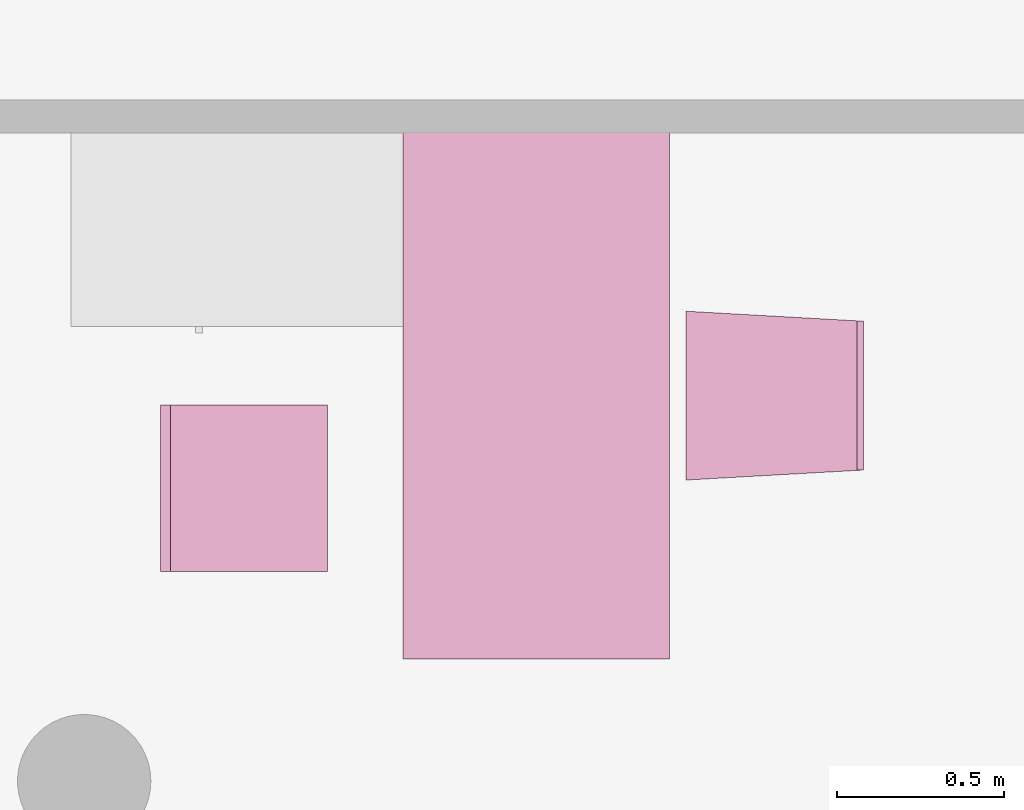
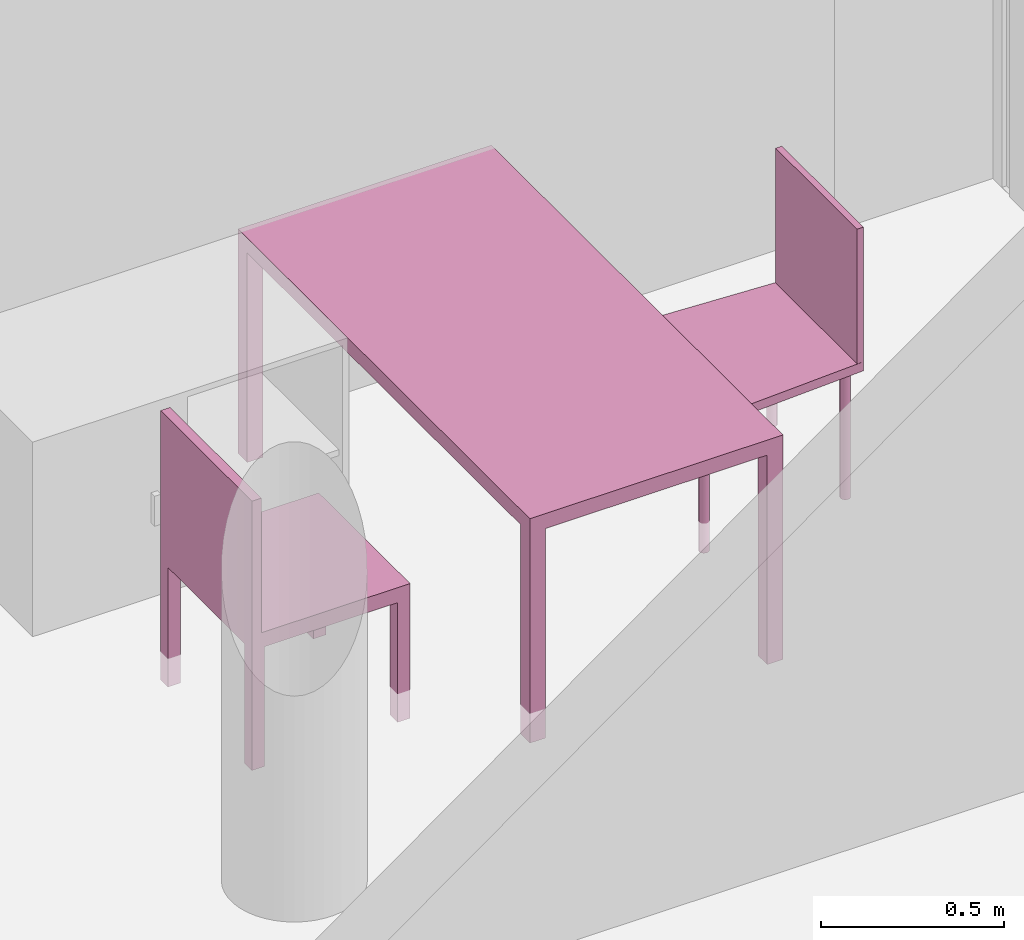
"""IFC4 building model written with IfcOpenShell, lengths in metres."""

import ifcopenshell
import ifcopenshell.guid

model = None  # the IFC model being written
_history = None  # IfcOwnerHistory: only IFC2X3 demands one
_inside = {}  # id of a spatial element -> (the spatial element, [elements in it])
_under = {}  # id of a project, library or spatial element -> (it, [spatial elements below it])
_declared = {}  # id of a project -> (the project, [libraries it declares])
_typed = {}  # id of a type object -> (the type object, [elements of that type])
_made_of = {}  # id of a material, layer set ... -> (it, [elements and type objects made of it])


def new_model(schema):
    """Start an empty IFC model of exactly this schema.

    Asked for "IFC4X3", IfcOpenShell would pick the latest addendum, in which some entities
    have other attributes; the version numbers below select the first issue.
    IFC2X3 requires an IfcOwnerHistory on every rooted entity: one is made here for all.
    """
    global model, _history
    if schema == "IFC4X3":
        model = ifcopenshell.file(schema_version=(4, 3, 0, 0))
    else:
        model = ifcopenshell.file(schema=schema)
    _inside.clear()
    _under.clear()
    _declared.clear()
    _typed.clear()
    _made_of.clear()
    _history = None
    if model.schema == "IFC2X3":
        org = make("IfcOrganization", Name="unknown")
        user = make(
            "IfcPersonAndOrganization",
            ThePerson=make("IfcPerson", FamilyName="unknown"),
            TheOrganization=org,
        )
        app = make(
            "IfcApplication",
            ApplicationDeveloper=org,
            Version="unknown",
            ApplicationFullName="unknown",
            ApplicationIdentifier="unknown",
        )
        _history = make(
            "IfcOwnerHistory",
            OwningUser=user,
            OwningApplication=app,
            ChangeAction="ADDED",
            CreationDate=0,
        )
    return model


def make(cls, **values):
    """One entity of the class cls with the attributes given. An attribute that is None is left unset."""
    return model.create_entity(
        cls, **{name: value for name, value in values.items() if value is not None}
    )


def entity(cls, *values):
    """Any entity or typed value of the class cls, its attributes in the order of the schema. None: left unset."""
    e = model.create_entity(cls)
    for i, value in enumerate(values):
        if value is not None:
            e[i] = value
    return e


def rooted(cls, **values):
    """An entity with a GlobalId (a new one), such as an element, a storey or a relation."""
    return make(cls, GlobalId=ifcopenshell.guid.new(), OwnerHistory=_history, **values)


def si_unit(unit_type, name, prefix=None):
    """IfcSIUnit, for example si_unit("LENGTHUNIT", "METRE", prefix="MILLI")."""
    return make("IfcSIUnit", UnitType=unit_type, Prefix=prefix, Name=name)


def converted_unit(unit_type, name, factor, base, dimensions=None, offset=None):
    """IfcConversionBasedUnit, such as the inch: factor (a typed value) times the base unit."""
    return make(
        "IfcConversionBasedUnit"
        if offset is None
        else "IfcConversionBasedUnitWithOffset",
        ConversionOffset=offset,
        Dimensions=None
        if dimensions is None
        else entity("IfcDimensionalExponents", *dimensions),
        UnitType=unit_type,
        Name=name,
        ConversionFactor=make(
            "IfcMeasureWithUnit", ValueComponent=factor, UnitComponent=base
        ),
    )


def derived_unit(unit_type, elements):
    """IfcDerivedUnit: a product of units, each with its exponent."""
    return make(
        "IfcDerivedUnit",
        Elements=[
            make("IfcDerivedUnitElement", Unit=unit, Exponent=power)
            for unit, power in elements
        ],
        UnitType=unit_type,
    )


def assignment(units):
    """IfcUnitAssignment: the units of a project."""
    return None if units is None else make("IfcUnitAssignment", Units=units)


def point(xyz):
    """IfcCartesianPoint."""
    return None if xyz is None else make("IfcCartesianPoint", Coordinates=xyz)


def direction(xyz):
    """IfcDirection."""
    return None if xyz is None else make("IfcDirection", DirectionRatios=xyz)


def frame(location, z_axis=None, x_axis=None):
    """IfcAxis2Placement3D, a coordinate frame: its origin and axes. An axis left out is left unset."""
    return make(
        "IfcAxis2Placement3D",
        Location=point(location),
        Axis=direction(z_axis),
        RefDirection=direction(x_axis),
    )


def origin():
    """The frame at (0, 0, 0) with its axes left unset."""
    return frame((0.0, 0.0, 0.0))


def place(relative_to, where):
    """IfcLocalPlacement: puts the frame where relative to a parent placement (None: the world)."""
    return make(
        "IfcLocalPlacement", PlacementRelTo=relative_to, RelativePlacement=where
    )


def context(
    kind, dimensions, precision=None, world=None, true_north=None, identifier=None
):
    """IfcGeometricRepresentationContext, for example the 3D "Model" context."""
    return make(
        "IfcGeometricRepresentationContext",
        ContextIdentifier=identifier,
        ContextType=kind,
        CoordinateSpaceDimension=dimensions,
        Precision=precision,
        WorldCoordinateSystem=world,
        TrueNorth=true_north,
    )


def subcontext(parent, identifier, kind, view, scale=None):
    """IfcGeometricRepresentationSubContext, for example "Body" below "Model"."""
    return make(
        "IfcGeometricRepresentationSubContext",
        ContextIdentifier=identifier,
        ContextType=kind,
        ParentContext=parent,
        TargetScale=scale,
        TargetView=view,
    )


def project(units=None, contexts=None):
    """IfcProject with its units and contexts."""
    return rooted(
        "IfcProject",
        Name="project",
        RepresentationContexts=contexts,
        UnitsInContext=assignment(units),
    )


def spatial(cls, under=None, at=None, **own):
    """A site, building, storey or space (cls), placed at a placement, below another one or the project."""
    s = rooted(cls, ObjectPlacement=at, **own)
    if under is not None:
        _under.setdefault(under.id(), (under, []))[1].append(s)
    return s


def faces_of(points, faces, orient=None, outer=None):
    """IfcFace entities. A face is a list of loops; a loop is a list of indices into points, from 0.

    orient and outer hold one flag for each loop. By default every Orientation is true, the
    first loop of a face is its IfcFaceOuterBound and the others are IfcFaceBound.
    """
    made = []
    for i, loops in enumerate(faces):
        bounds = []
        for j, loop in enumerate(loops):
            is_outer = j == 0 if outer is None else outer[i][j]
            bounds.append(
                make(
                    "IfcFaceOuterBound" if is_outer else "IfcFaceBound",
                    Bound=make("IfcPolyLoop", Polygon=[points[k] for k in loop]),
                    Orientation=True if orient is None else orient[i][j],
                )
            )
        made.append(make("IfcFace", Bounds=bounds))
    return made


def faceted_brep(points, faces, orient=None, outer=None, voids=None):
    """IfcFacetedBrep: a solid bounded by flat faces; with voids (closed shells), ...WithVoids."""
    shared = [point(p) for p in points]
    hull = make("IfcClosedShell", CfsFaces=faces_of(shared, faces, orient, outer))
    if voids is None:
        return make("IfcFacetedBrep", Outer=hull)
    return make(
        "IfcFacetedBrepWithVoids",
        Outer=hull,
        Voids=[
            make(cls, CfsFaces=faces_of(shared, fs, o, b)) for cls, fs, o, b in voids
        ],
    )


def shape(context_of_items, identifier, shape_type, items):
    """IfcShapeRepresentation: the items that make up one representation, for example the "Body"."""
    return make(
        "IfcShapeRepresentation",
        ContextOfItems=context_of_items,
        RepresentationIdentifier=identifier,
        RepresentationType=shape_type,
        Items=items,
    )


def made_of(thing, what):
    """Note that an element or type object is made of a material, layer set ...; save() writes the relation."""
    if what is not None:
        _made_of.setdefault(what.id(), (what, []))[1].append(thing)
    return thing


def element(
    cls,
    number,
    at=None,
    inside=None,
    cuts=None,
    type_object=None,
    material=None,
    context=None,
    identifier="Body",
    shape_type=None,
    held_by="IfcProductDefinitionShape",
    body=None,
    shapes=None,
    **own,
):
    """One element of the class cls, such as IfcWall. Its Tag is "e" and its number.

    at: its placement. inside: the storey or other place that contains it. cuts: it is an
    opening in that element (IfcRelVoidsElement). A single representation is given by context,
    identifier, shape_type and body (its items); several are given by shapes. held_by: the class
    of the entity that holds the representations. save() writes the other relations.
    """
    e = rooted(cls, Tag="e%d" % number, ObjectPlacement=at, **own)
    if body is not None:
        shapes = [shape(context, identifier, shape_type, body)]
    if shapes is not None:
        e.Representation = make(held_by, Representations=shapes)
    if inside is not None:
        _inside.setdefault(inside.id(), (inside, []))[1].append(e)
    if cuts is not None:
        rooted(
            "IfcRelVoidsElement", RelatingBuildingElement=cuts, RelatedOpeningElement=e
        )
    if type_object is not None:
        _typed.setdefault(type_object.id(), (type_object, []))[1].append(e)
    return made_of(e, material)


def aggregate(whole, parts):
    """IfcRelAggregates: a whole, such as a stair, and the parts it consists of."""
    return rooted("IfcRelAggregates", RelatingObject=whole, RelatedObjects=parts)


def save(model, path):
    """Write the relations noted so far, then the file.

    IfcRelAggregates (storeys below a building ...), IfcRelContainedInSpatialStructure (elements
    in a storey), IfcRelDefinesByType, IfcRelAssociatesMaterial and IfcRelDeclares: one each for
    every whole, place, type object, material and project.
    """
    for whole, parts in _under.values():
        aggregate(whole, parts)
    for where, things in _inside.values():
        rooted(
            "IfcRelContainedInSpatialStructure",
            RelatedElements=things,
            RelatingStructure=where,
        )
    for kind, things in _typed.values():
        rooted("IfcRelDefinesByType", RelatedObjects=things, RelatingType=kind)
    for what, things in _made_of.values():
        rooted("IfcRelAssociatesMaterial", RelatedObjects=things, RelatingMaterial=what)
    for by, libraries in _declared.values():
        rooted("IfcRelDeclares", RelatingContext=by, RelatedDefinitions=libraries)
    model.write(path)


model = new_model("IFC4")

# Units and contexts
model_context = context("Model", 3, precision=1e-05, world=origin())
body_context = subcontext(model_context, "Body", "Model", "MODEL_VIEW")
ifc_project = project(units=[si_unit("LENGTHUNIT", "METRE"), si_unit("AREAUNIT", "SQUARE_METRE"), si_unit("VOLUMEUNIT", "CUBIC_METRE"), si_unit("MASSUNIT", "GRAM", prefix="KILO"), converted_unit("PLANEANGLEUNIT", "DEGREE", entity("IfcPlaneAngleMeasure", 0.0174532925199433), si_unit("PLANEANGLEUNIT", "RADIAN"), dimensions=[0, 0, 0, 0, 0, 0, 0]), derived_unit("THERMALTRANSMITTANCEUNIT", [(si_unit("POWERUNIT", "WATT"), 1), (si_unit("THERMODYNAMICTEMPERATUREUNIT", "KELVIN"), -1), (si_unit("LENGTHUNIT", "METRE"), -2)]), derived_unit("VOLUMETRICFLOWRATEUNIT", [(si_unit("LENGTHUNIT", "METRE"), 3), (converted_unit("TIMEUNIT", "hour", entity("IfcTimeMeasure", 3600.0), si_unit("TIMEUNIT", "SECOND"), dimensions=[0, 0, 1, 0, 0, 0, 0]), -1), (si_unit("LENGTHUNIT", "METRE"), -1)])], contexts=[model_context])

# Building, storeys
building_placement = place(None, origin())
building = spatial("IfcBuilding", under=ifc_project, at=building_placement, Name="HABITATGE PLURIFAMILIAR", CompositionType="ELEMENT")
storey_1_placement = place(building_placement, frame((0.0, 0.0, 12.27)))
storey_1 = spatial("IfcBuildingStorey", under=building, at=storey_1_placement, Name="PLANTA TERCERA", CompositionType="ELEMENT", Elevation=12.27)
storey_2_placement = place(storey_1_placement, frame((0.0, 0.0, 9.26)))
storey_2 = spatial("IfcBuildingStorey", under=storey_1, at=storey_2_placement, Name="NOU", CompositionType="PARTIAL")

# Furniture
furniture_1_placement = place(storey_2_placement, frame((401.943124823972, 18.1662556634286, -9.3599999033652)))
element("IfcFurniture", 1, at=furniture_1_placement, inside=storey_2, Name="Taula 160X80_P3", context=body_context, shape_type="Brep", body=[
    faceted_brep([(0.750069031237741, 0.05, 0.0), (0.750069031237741, 0.0, 0.0), (0.800069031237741, 0.0, 0.0), (0.800069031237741, 0.05, 0.0), (0.800069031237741, 0.05, 0.7), (0.800069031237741, 0.0, 0.7), (0.750069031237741, 0.0, 0.7), (0.750069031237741, 0.05, 0.7)], [[[0, 1, 2, 3]], [[4, 5, 6, 7]], [[3, 4, 7, 0]], [[2, 5, 4, 3]], [[1, 6, 5, 2]], [[0, 7, 6, 1]]], orient=[[False], [False], [False], [False], [False], [False]]),
    faceted_brep([(0.0, 0.0500000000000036, 0.0), (0.0, 0.0, 0.0), (0.05, 0.0, 0.0), (0.05, 0.05, 0.0), (0.05, 0.05, 0.7), (0.05, 0.0, 0.7), (0.0, 0.0, 0.7), (0.0, 0.0500000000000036, 0.7)], [[[0, 1, 2, 3]], [[4, 5, 6, 7]], [[3, 4, 7, 0]], [[2, 5, 4, 3]], [[1, 6, 5, 2]], [[0, 7, 6, 1]]], orient=[[False], [False], [False], [False], [False], [False]]),
    faceted_brep([(0.0, 1.596945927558, 0.7), (0.0, 0.0, 0.7), (0.800069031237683, 0.0, 0.7), (0.800069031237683, 1.596945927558, 0.7), (0.800069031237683, 1.596945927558, 0.75), (0.800069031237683, 0.0, 0.75), (0.0, 0.0, 0.75), (0.0, 1.596945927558, 0.75)], [[[0, 1, 2, 3]], [[4, 5, 6, 7]], [[3, 4, 7, 0]], [[2, 5, 4, 3]], [[1, 6, 5, 2]], [[0, 7, 6, 1]]], orient=[[False], [False], [False], [False], [False], [False]]),
    faceted_brep([(0.750069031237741, 1.596945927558, 0.0), (0.750069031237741, 1.546945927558, 0.0), (0.800069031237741, 1.546945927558, 0.0), (0.800069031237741, 1.596945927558, 0.0), (0.800069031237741, 1.596945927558, 0.7), (0.800069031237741, 1.546945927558, 0.7), (0.750069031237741, 1.546945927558, 0.7), (0.750069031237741, 1.596945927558, 0.7)], [[[0, 1, 2, 3]], [[4, 5, 6, 7]], [[3, 4, 7, 0]], [[2, 5, 4, 3]], [[1, 6, 5, 2]], [[0, 7, 6, 1]]], orient=[[False], [False], [False], [False], [False], [False]]),
    faceted_brep([(0.0, 1.59694592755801, 0.0), (0.0, 1.54694592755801, 0.0), (0.05, 1.54694592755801, 0.0), (0.05, 1.59694592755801, 0.0), (0.05, 1.59694592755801, 0.7), (0.05, 1.54694592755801, 0.7), (0.0, 1.54694592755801, 0.7), (0.0, 1.59694592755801, 0.7)], [[[0, 1, 2, 3]], [[4, 5, 6, 7]], [[3, 4, 7, 0]], [[2, 5, 4, 3]], [[1, 6, 5, 2]], [[0, 7, 6, 1]]], orient=[[False], [False], [False], [False], [False], [False]]),
])
furniture_2_placement = place(storey_2_placement, frame((402.791790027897, 18.7025562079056, -9.36074913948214)))
element("IfcFurniture", 2, at=furniture_2_placement, inside=storey_2, Name="Cadira confident_P3", context=body_context, shape_type="Brep", body=[
    faceted_brep([(0.025088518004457, 0.00928763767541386, 0.0), (0.0276826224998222, 0.00951305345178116, 0.0), (0.0301981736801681, 0.0101855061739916, 0.0), (0.0325587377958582, 0.0112845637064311, 0.0), (0.0346925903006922, 0.0127768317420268, 0.0), (0.0365348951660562, 0.0146169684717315, 0.0), (0.038029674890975, 0.0167490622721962, 0.0), (0.0391315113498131, 0.0191083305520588, 0.0), (0.0398069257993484, 0.0216230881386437, 0.0), (0.0400353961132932, 0.0242169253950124, 0.0), (0.0398099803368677, 0.0268110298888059, 0.0), (0.0391375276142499, 0.0293265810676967, 0.0), (0.0380384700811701, 0.0316871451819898, 0.0), (0.036546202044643, 0.0338209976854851, 0.0), (0.0347060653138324, 0.0356633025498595, 0.0), (0.0325739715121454, 0.037158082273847, 0.0), (0.0302147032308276, 0.0382599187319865, 0.0), (0.0276999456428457, 0.0389353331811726, 0.0), (0.0251061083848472, 0.0391638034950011, 0.0), (0.022512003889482, 0.0389383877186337, 0.0), (0.0199964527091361, 0.0382659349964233, 0.0), (0.0176358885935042, 0.037166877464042, 0.0), (0.0155020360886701, 0.0356746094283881, 0.0), (0.0136597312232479, 0.0338344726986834, 0.0), (0.0121649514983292, 0.0317023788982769, 0.0), (0.0110631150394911, 0.0293431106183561, 0.0), (0.0103877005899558, 0.0268283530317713, 0.0), (0.0101592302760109, 0.0242345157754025, 0.0), (0.0103846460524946, 0.021640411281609, 0.0), (0.0110570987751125, 0.0191248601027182, 0.0), (0.0121561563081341, 0.0167642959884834, 0.0), (0.0136484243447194, 0.0146304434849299, 0.0), (0.01548856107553, 0.0127881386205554, 0.0), (0.017620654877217, 0.0112933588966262, 0.0), (0.0199799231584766, 0.0101915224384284, 0.0), (0.0224946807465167, 0.0095161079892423, 0.0), (0.025088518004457, 0.00928763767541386, 0.448281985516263), (0.0224946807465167, 0.0095161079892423, 0.448281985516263), (0.0199799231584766, 0.0101915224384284, 0.448281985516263), (0.017620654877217, 0.0112933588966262, 0.448281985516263), (0.01548856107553, 0.0127881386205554, 0.448281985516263), (0.0136484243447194, 0.0146304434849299, 0.448281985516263), (0.0121561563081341, 0.0167642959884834, 0.448281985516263), (0.0110570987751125, 0.0191248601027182, 0.448281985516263), (0.0103846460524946, 0.021640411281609, 0.448281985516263), (0.0101592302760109, 0.0242345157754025, 0.448281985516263), (0.0103877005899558, 0.0268283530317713, 0.448281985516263), (0.0110631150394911, 0.0293431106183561, 0.448281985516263), (0.0121649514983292, 0.0317023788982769, 0.448281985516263), (0.0136597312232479, 0.0338344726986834, 0.448281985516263), (0.0155020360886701, 0.0356746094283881, 0.448281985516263), (0.0176358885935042, 0.037166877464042, 0.448281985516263), (0.0199964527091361, 0.0382659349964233, 0.448281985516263), (0.022512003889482, 0.0389383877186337, 0.448281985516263), (0.0251061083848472, 0.0391638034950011, 0.448281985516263), (0.0276999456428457, 0.0389353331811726, 0.448281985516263), (0.0302147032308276, 0.0382599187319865, 0.448281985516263), (0.0325739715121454, 0.037158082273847, 0.448281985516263), (0.0347060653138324, 0.0356633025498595, 0.448281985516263), (0.036546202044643, 0.0338209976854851, 0.448281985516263), (0.0380384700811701, 0.0316871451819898, 0.448281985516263), (0.0391375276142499, 0.0293265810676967, 0.448281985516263), (0.0398099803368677, 0.0268110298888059, 0.448281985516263), (0.0400353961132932, 0.0242169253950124, 0.448281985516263), (0.0398069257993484, 0.0216230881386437, 0.448281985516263), (0.0391315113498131, 0.0191083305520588, 0.448281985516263), (0.038029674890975, 0.0167490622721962, 0.448281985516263), (0.0365348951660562, 0.0146169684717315, 0.448281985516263), (0.0346925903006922, 0.0127768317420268, 0.448281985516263), (0.0325587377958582, 0.0112845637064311, 0.448281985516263), (0.0301981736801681, 0.0101855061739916, 0.448281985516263), (0.0276826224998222, 0.00951305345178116, 0.448281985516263)], [[[0, 1, 2, 3, 4, 5, 6, 7, 8, 9, 10, 11, 12, 13, 14, 15, 16, 17, 18, 19, 20, 21, 22, 23, 24, 25, 26, 27, 28, 29, 30, 31, 32, 33, 34, 35]], [[36, 37, 38, 39, 40, 41, 42, 43, 44, 45, 46, 47, 48, 49, 50, 51, 52, 53, 54, 55, 56, 57, 58, 59, 60, 61, 62, 63, 64, 65, 66, 67, 68, 69, 70, 71]], [[1, 0, 36, 71]], [[2, 1, 71, 70]], [[3, 2, 70, 69]], [[4, 3, 69, 68]], [[5, 4, 68, 67]], [[6, 5, 67, 66]], [[7, 6, 66, 65]], [[8, 7, 65, 64]], [[9, 8, 64, 63]], [[10, 9, 63, 62]], [[11, 10, 62, 61]], [[12, 11, 61, 60]], [[13, 12, 60, 59]], [[14, 13, 59, 58]], [[15, 14, 58, 57]], [[16, 15, 57, 56]], [[17, 16, 56, 55]], [[18, 17, 55, 54]], [[19, 18, 54, 53]], [[20, 19, 53, 52]], [[21, 20, 52, 51]], [[22, 21, 51, 50]], [[23, 22, 50, 49]], [[24, 23, 49, 48]], [[25, 24, 48, 47]], [[26, 25, 47, 46]], [[27, 26, 46, 45]], [[28, 27, 45, 44]], [[29, 28, 44, 43]], [[30, 29, 43, 42]], [[31, 30, 42, 41]], [[32, 31, 41, 40]], [[33, 32, 40, 39]], [[34, 33, 39, 38]], [[35, 34, 38, 37]], [[0, 35, 37, 36]]], orient=[[False], [False], [False], [False], [False], [False], [False], [False], [False], [False], [False], [False], [False], [False], [False], [False], [False], [False], [False], [False], [False], [False], [False], [False], [False], [False], [False], [False], [False], [False], [False], [False], [False], [False], [False], [False], [False], [False]]),
    faceted_brep([(0.487495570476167, 0.0369256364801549, 0.0), (0.490089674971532, 0.0371510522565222, 0.0), (0.492605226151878, 0.0378235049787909, 0.0), (0.494965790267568, 0.0389225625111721, 0.0), (0.497099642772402, 0.0404148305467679, 0.0), (0.498941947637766, 0.0422549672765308, 0.0), (0.500436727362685, 0.0443870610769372, 0.0), (0.501538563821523, 0.0467463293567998, 0.0), (0.502213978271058, 0.0492610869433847, 0.0), (0.502442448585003, 0.0518549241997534, 0.0), (0.502217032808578, 0.054449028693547, 0.0), (0.501544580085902, 0.0569645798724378, 0.0), (0.50044552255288, 0.0593251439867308, 0.0), (0.498953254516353, 0.0614589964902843, 0.0), (0.497113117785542, 0.0633013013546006, 0.0), (0.494981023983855, 0.064796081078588, 0.0), (0.492621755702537, 0.0658979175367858, 0.0), (0.490106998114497, 0.0665733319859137, 0.0), (0.487513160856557, 0.0668018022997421, 0.0), (0.484919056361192, 0.066576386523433, 0.0), (0.482403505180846, 0.0659039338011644, 0.0), (0.480042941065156, 0.0648048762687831, 0.0), (0.47790908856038, 0.0633126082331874, 0.0), (0.476066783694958, 0.0614724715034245, 0.0), (0.474572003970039, 0.059340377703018, 0.0), (0.473470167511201, 0.0569811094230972, 0.0), (0.472794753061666, 0.0544663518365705, 0.0), (0.472566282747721, 0.0518725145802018, 0.0), (0.472791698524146, 0.0492784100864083, 0.0), (0.473464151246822, 0.0467628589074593, 0.0), (0.474563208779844, 0.0444022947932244, 0.0), (0.476055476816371, 0.0422684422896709, 0.0), (0.477895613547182, 0.0404261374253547, 0.0), (0.480027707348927, 0.0389313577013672, 0.0), (0.482386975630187, 0.0378295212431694, 0.0), (0.484901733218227, 0.0371541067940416, 0.0), (0.487495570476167, 0.0369256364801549, 0.448281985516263), (0.484901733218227, 0.0371541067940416, 0.448281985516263), (0.482386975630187, 0.0378295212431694, 0.448281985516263), (0.480027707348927, 0.0389313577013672, 0.448281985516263), (0.477895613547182, 0.0404261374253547, 0.448281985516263), (0.476055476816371, 0.0422684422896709, 0.448281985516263), (0.474563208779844, 0.0444022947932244, 0.448281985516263), (0.473464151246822, 0.0467628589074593, 0.448281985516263), (0.472791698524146, 0.0492784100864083, 0.448281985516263), (0.472566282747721, 0.0518725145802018, 0.448281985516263), (0.472794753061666, 0.0544663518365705, 0.448281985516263), (0.473470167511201, 0.0569811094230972, 0.448281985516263), (0.474572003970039, 0.059340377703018, 0.448281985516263), (0.476066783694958, 0.0614724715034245, 0.448281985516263), (0.47790908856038, 0.0633126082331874, 0.448281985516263), (0.480042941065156, 0.0648048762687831, 0.448281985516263), (0.482403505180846, 0.0659039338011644, 0.448281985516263), (0.484919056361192, 0.066576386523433, 0.448281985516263), (0.487513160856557, 0.0668018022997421, 0.448281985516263), (0.490106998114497, 0.0665733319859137, 0.448281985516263), (0.492621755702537, 0.0658979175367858, 0.448281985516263), (0.494981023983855, 0.064796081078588, 0.448281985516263), (0.497113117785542, 0.0633013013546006, 0.448281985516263), (0.498953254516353, 0.0614589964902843, 0.448281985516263), (0.50044552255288, 0.0593251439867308, 0.448281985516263), (0.501544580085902, 0.0569645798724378, 0.448281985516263), (0.502217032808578, 0.054449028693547, 0.448281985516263), (0.502442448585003, 0.0518549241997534, 0.448281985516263), (0.502213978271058, 0.0492610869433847, 0.448281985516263), (0.501538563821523, 0.0467463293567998, 0.448281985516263), (0.500436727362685, 0.0443870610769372, 0.448281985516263), (0.498941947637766, 0.0422549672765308, 0.448281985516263), (0.497099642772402, 0.0404148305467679, 0.448281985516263), (0.494965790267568, 0.0389225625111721, 0.448281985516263), (0.492605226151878, 0.0378235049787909, 0.448281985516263), (0.490089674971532, 0.0371510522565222, 0.448281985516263)], [[[0, 1, 2, 3, 4, 5, 6, 7, 8, 9, 10, 11, 12, 13, 14, 15, 16, 17, 18, 19, 20, 21, 22, 23, 24, 25, 26, 27, 28, 29, 30, 31, 32, 33, 34, 35]], [[36, 37, 38, 39, 40, 41, 42, 43, 44, 45, 46, 47, 48, 49, 50, 51, 52, 53, 54, 55, 56, 57, 58, 59, 60, 61, 62, 63, 64, 65, 66, 67, 68, 69, 70, 71]], [[1, 0, 36, 71]], [[2, 1, 71, 70]], [[3, 2, 70, 69]], [[4, 3, 69, 68]], [[5, 4, 68, 67]], [[6, 5, 67, 66]], [[7, 6, 66, 65]], [[8, 7, 65, 64]], [[9, 8, 64, 63]], [[10, 9, 63, 62]], [[11, 10, 62, 61]], [[12, 11, 61, 60]], [[13, 12, 60, 59]], [[14, 13, 59, 58]], [[15, 14, 58, 57]], [[16, 15, 57, 56]], [[17, 16, 56, 55]], [[18, 17, 55, 54]], [[19, 18, 54, 53]], [[20, 19, 53, 52]], [[21, 20, 52, 51]], [[22, 21, 51, 50]], [[23, 22, 50, 49]], [[24, 23, 49, 48]], [[25, 24, 48, 47]], [[26, 25, 47, 46]], [[27, 26, 46, 45]], [[28, 27, 45, 44]], [[29, 28, 44, 43]], [[30, 29, 43, 42]], [[31, 30, 42, 41]], [[32, 31, 41, 40]], [[33, 32, 40, 39]], [[34, 33, 39, 38]], [[35, 34, 38, 37]], [[0, 35, 37, 36]]], orient=[[False], [False], [False], [False], [False], [False], [False], [False], [False], [False], [False], [False], [False], [False], [False], [False], [False], [False], [False], [False], [False], [False], [False], [False], [False], [False], [False], [False], [False], [False], [False], [False], [False], [False], [False], [False], [False], [False]]),
    faceted_brep([(0.0250885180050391, 0.469287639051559, 0.0), (0.0276826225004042, 0.469513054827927, 0.0), (0.0301981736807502, 0.470185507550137, 0.0), (0.032558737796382, 0.471284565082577, 0.0), (0.0346925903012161, 0.472776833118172, 0.0), (0.0365348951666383, 0.474616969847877, 0.0), (0.0380296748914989, 0.476749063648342, 0.0), (0.0391315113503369, 0.479108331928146, 0.0), (0.0398069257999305, 0.481623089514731, 0.0), (0.0400353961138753, 0.484216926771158, 0.0), (0.0398099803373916, 0.486811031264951, 0.0), (0.0391375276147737, 0.489326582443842, 0.0), (0.038038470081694, 0.491687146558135, 0.0), (0.0365462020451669, 0.493820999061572, 0.0), (0.0347060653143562, 0.495663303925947, 0.0), (0.0325739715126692, 0.497158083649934, 0.0), (0.0302147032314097, 0.498259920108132, 0.0), (0.0276999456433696, 0.498935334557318, 0.0), (0.0251061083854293, 0.499163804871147, 0.0), (0.0225120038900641, 0.498938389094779, 0.0), (0.0199964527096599, 0.498265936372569, 0.0), (0.0176358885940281, 0.497166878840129, 0.0), (0.015502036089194, 0.495674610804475, 0.0), (0.01365973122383, 0.493834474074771, 0.0), (0.0121649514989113, 0.491702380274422, 0.0), (0.0110631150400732, 0.489343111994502, 0.0), (0.0103877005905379, 0.486828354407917, 0.0), (0.0101592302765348, 0.484234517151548, 0.0), (0.0103846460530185, 0.481640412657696, 0.0), (0.0110570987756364, 0.479124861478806, 0.0), (0.0121561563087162, 0.476764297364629, 0.0), (0.0136484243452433, 0.474630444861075, 0.0), (0.0154885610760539, 0.472788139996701, 0.0), (0.0176206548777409, 0.471293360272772, 0.0), (0.0199799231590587, 0.470191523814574, 0.0), (0.0224946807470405, 0.469516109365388, 0.0), (0.0250885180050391, 0.469287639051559, 0.448281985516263), (0.0224946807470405, 0.469516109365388, 0.448281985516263), (0.0199799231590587, 0.470191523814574, 0.448281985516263), (0.0176206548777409, 0.471293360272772, 0.448281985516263), (0.0154885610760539, 0.472788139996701, 0.448281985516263), (0.0136484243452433, 0.474630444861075, 0.448281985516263), (0.0121561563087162, 0.476764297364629, 0.448281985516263), (0.0110570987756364, 0.479124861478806, 0.448281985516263), (0.0103846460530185, 0.481640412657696, 0.448281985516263), (0.0101592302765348, 0.484234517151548, 0.448281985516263), (0.0103877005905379, 0.486828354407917, 0.448281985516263), (0.0110631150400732, 0.489343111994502, 0.448281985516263), (0.0121649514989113, 0.491702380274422, 0.448281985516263), (0.01365973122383, 0.493834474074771, 0.448281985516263), (0.015502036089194, 0.495674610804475, 0.448281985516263), (0.0176358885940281, 0.497166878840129, 0.448281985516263), (0.0199964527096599, 0.498265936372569, 0.448281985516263), (0.0225120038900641, 0.498938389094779, 0.448281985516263), (0.0251061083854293, 0.499163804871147, 0.448281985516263), (0.0276999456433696, 0.498935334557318, 0.448281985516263), (0.0302147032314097, 0.498259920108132, 0.448281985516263), (0.0325739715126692, 0.497158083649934, 0.448281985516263), (0.0347060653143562, 0.495663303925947, 0.448281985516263), (0.0365462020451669, 0.493820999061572, 0.448281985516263), (0.038038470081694, 0.491687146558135, 0.448281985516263), (0.0391375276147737, 0.489326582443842, 0.448281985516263), (0.0398099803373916, 0.486811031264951, 0.448281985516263), (0.0400353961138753, 0.484216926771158, 0.448281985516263), (0.0398069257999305, 0.481623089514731, 0.448281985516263), (0.0391315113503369, 0.479108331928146, 0.448281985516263), (0.0380296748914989, 0.476749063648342, 0.448281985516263), (0.0365348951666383, 0.474616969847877, 0.448281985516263), (0.0346925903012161, 0.472776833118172, 0.448281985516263), (0.032558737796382, 0.471284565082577, 0.448281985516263), (0.0301981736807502, 0.470185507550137, 0.448281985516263), (0.0276826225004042, 0.469513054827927, 0.448281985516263)], [[[0, 1, 2, 3, 4, 5, 6, 7, 8, 9, 10, 11, 12, 13, 14, 15, 16, 17, 18, 19, 20, 21, 22, 23, 24, 25, 26, 27, 28, 29, 30, 31, 32, 33, 34, 35]], [[36, 37, 38, 39, 40, 41, 42, 43, 44, 45, 46, 47, 48, 49, 50, 51, 52, 53, 54, 55, 56, 57, 58, 59, 60, 61, 62, 63, 64, 65, 66, 67, 68, 69, 70, 71]], [[1, 0, 36, 71]], [[2, 1, 71, 70]], [[3, 2, 70, 69]], [[4, 3, 69, 68]], [[5, 4, 68, 67]], [[6, 5, 67, 66]], [[7, 6, 66, 65]], [[8, 7, 65, 64]], [[9, 8, 64, 63]], [[10, 9, 63, 62]], [[11, 10, 62, 61]], [[12, 11, 61, 60]], [[13, 12, 60, 59]], [[14, 13, 59, 58]], [[15, 14, 58, 57]], [[16, 15, 57, 56]], [[17, 16, 56, 55]], [[18, 17, 55, 54]], [[19, 18, 54, 53]], [[20, 19, 53, 52]], [[21, 20, 52, 51]], [[22, 21, 51, 50]], [[23, 22, 50, 49]], [[24, 23, 49, 48]], [[25, 24, 48, 47]], [[26, 25, 47, 46]], [[27, 26, 46, 45]], [[28, 27, 45, 44]], [[29, 28, 44, 43]], [[30, 29, 43, 42]], [[31, 30, 42, 41]], [[32, 31, 41, 40]], [[33, 32, 40, 39]], [[34, 33, 39, 38]], [[35, 34, 38, 37]], [[0, 35, 37, 36]]], orient=[[False], [False], [False], [False], [False], [False], [False], [False], [False], [False], [False], [False], [False], [False], [False], [False], [False], [False], [False], [False], [False], [False], [False], [False], [False], [False], [False], [False], [False], [False], [False], [False], [False], [False], [False], [False], [False], [False]]),
    faceted_brep([(0.487495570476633, 0.436925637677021, 0.0), (0.490089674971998, 0.43715105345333, 0.0), (0.492605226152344, 0.437823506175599, 0.0), (0.494965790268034, 0.43892256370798, 0.0), (0.49709964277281, 0.440414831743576, 0.0), (0.498941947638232, 0.442254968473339, 0.0), (0.500436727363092, 0.444387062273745, 0.0), (0.50153856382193, 0.446746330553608, 0.0), (0.502213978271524, 0.449261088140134, 0.0), (0.502442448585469, 0.451854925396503, 0.0), (0.502217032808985, 0.454449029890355, 0.0), (0.501544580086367, 0.456964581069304, 0.0), (0.500445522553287, 0.45932514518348, 0.0), (0.498953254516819, 0.461458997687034, 0.0), (0.49711311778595, 0.46330130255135, 0.0), (0.494981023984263, 0.464796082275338, 0.0), (0.492621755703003, 0.465897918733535, 0.0), (0.490106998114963, 0.466573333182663, 0.0), (0.487513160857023, 0.46680180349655, 0.0), (0.484919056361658, 0.466576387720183, 0.0), (0.482403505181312, 0.465903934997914, 0.0), (0.480042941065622, 0.464804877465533, 0.0), (0.477909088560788, 0.463312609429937, 0.0), (0.476066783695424, 0.461472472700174, 0.0), (0.474572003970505, 0.459340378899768, 0.0), (0.473470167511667, 0.456981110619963, 0.0), (0.472794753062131, 0.454466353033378, 0.0), (0.472566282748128, 0.451872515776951, 0.0), (0.472791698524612, 0.449278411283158, 0.0), (0.47346415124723, 0.446762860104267, 0.0), (0.47456320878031, 0.444402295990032, 0.0), (0.476055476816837, 0.442268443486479, 0.0), (0.477895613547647, 0.440426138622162, 0.0), (0.480027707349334, 0.438931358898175, 0.0), (0.482386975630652, 0.437829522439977, 0.0), (0.484901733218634, 0.437154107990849, 0.0), (0.487495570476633, 0.436925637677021, 0.448281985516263), (0.484901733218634, 0.437154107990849, 0.448281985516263), (0.482386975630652, 0.437829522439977, 0.448281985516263), (0.480027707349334, 0.438931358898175, 0.448281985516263), (0.477895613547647, 0.440426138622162, 0.448281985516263), (0.476055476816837, 0.442268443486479, 0.448281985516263), (0.47456320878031, 0.444402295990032, 0.448281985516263), (0.47346415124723, 0.446762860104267, 0.448281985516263), (0.472791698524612, 0.449278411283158, 0.448281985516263), (0.472566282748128, 0.451872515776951, 0.448281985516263), (0.472794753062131, 0.454466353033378, 0.448281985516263), (0.473470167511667, 0.456981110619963, 0.448281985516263), (0.474572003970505, 0.459340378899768, 0.448281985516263), (0.476066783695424, 0.461472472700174, 0.448281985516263), (0.477909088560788, 0.463312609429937, 0.448281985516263), (0.480042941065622, 0.464804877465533, 0.448281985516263), (0.482403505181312, 0.465903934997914, 0.448281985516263), (0.484919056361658, 0.466576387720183, 0.448281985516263), (0.487513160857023, 0.46680180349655, 0.448281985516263), (0.490106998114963, 0.466573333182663, 0.448281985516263), (0.492621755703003, 0.465897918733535, 0.448281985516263), (0.494981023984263, 0.464796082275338, 0.448281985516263), (0.49711311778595, 0.46330130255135, 0.448281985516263), (0.498953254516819, 0.461458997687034, 0.448281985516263), (0.500445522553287, 0.45932514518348, 0.448281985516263), (0.501544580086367, 0.456964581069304, 0.448281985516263), (0.502217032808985, 0.454449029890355, 0.448281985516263), (0.502442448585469, 0.451854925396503, 0.448281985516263), (0.502213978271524, 0.449261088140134, 0.448281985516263), (0.50153856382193, 0.446746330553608, 0.448281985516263), (0.500436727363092, 0.444387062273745, 0.448281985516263), (0.498941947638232, 0.442254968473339, 0.448281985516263), (0.49709964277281, 0.440414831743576, 0.448281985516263), (0.494965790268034, 0.43892256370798, 0.448281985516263), (0.492605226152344, 0.437823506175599, 0.448281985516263), (0.490089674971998, 0.43715105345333, 0.448281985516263)], [[[0, 1, 2, 3, 4, 5, 6, 7, 8, 9, 10, 11, 12, 13, 14, 15, 16, 17, 18, 19, 20, 21, 22, 23, 24, 25, 26, 27, 28, 29, 30, 31, 32, 33, 34, 35]], [[36, 37, 38, 39, 40, 41, 42, 43, 44, 45, 46, 47, 48, 49, 50, 51, 52, 53, 54, 55, 56, 57, 58, 59, 60, 61, 62, 63, 64, 65, 66, 67, 68, 69, 70, 71]], [[1, 0, 36, 71]], [[2, 1, 71, 70]], [[3, 2, 70, 69]], [[4, 3, 69, 68]], [[5, 4, 68, 67]], [[6, 5, 67, 66]], [[7, 6, 66, 65]], [[8, 7, 65, 64]], [[9, 8, 64, 63]], [[10, 9, 63, 62]], [[11, 10, 62, 61]], [[12, 11, 61, 60]], [[13, 12, 60, 59]], [[14, 13, 59, 58]], [[15, 14, 58, 57]], [[16, 15, 57, 56]], [[17, 16, 56, 55]], [[18, 17, 55, 54]], [[19, 18, 54, 53]], [[20, 19, 53, 52]], [[21, 20, 52, 51]], [[22, 21, 51, 50]], [[23, 22, 50, 49]], [[24, 23, 49, 48]], [[25, 24, 48, 47]], [[26, 25, 47, 46]], [[27, 26, 46, 45]], [[28, 27, 45, 44]], [[29, 28, 44, 43]], [[30, 29, 43, 42]], [[31, 30, 42, 41]], [[32, 31, 41, 40]], [[33, 32, 40, 39]], [[34, 33, 39, 38]], [[35, 34, 38, 37]], [[0, 35, 37, 36]]], orient=[[False], [False], [False], [False], [False], [False], [False], [False], [False], [False], [False], [False], [False], [False], [False], [False], [False], [False], [False], [False], [False], [False], [False], [False], [False], [False], [False], [False], [False], [False], [False], [False], [False], [False], [False], [False], [False], [False]]),
    faceted_brep([(0.532607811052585, 0.476514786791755, 0.418281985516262), (0.0, 0.506514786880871, 0.418281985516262), (0.0, 0.0, 0.418281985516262), (0.532607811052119, 0.0300000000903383, 0.418281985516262), (0.0, 0.506514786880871, 0.448281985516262), (0.532607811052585, 0.476514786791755, 0.448281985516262), (0.532607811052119, 0.0300000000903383, 0.448281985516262), (0.0, 0.0, 0.448281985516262)], [[[0, 1, 2, 3]], [[4, 5, 6, 7]], [[1, 0, 5, 4]], [[2, 1, 4, 7]], [[3, 2, 7, 6]], [[0, 3, 6, 5]]], orient=[[False], [False], [False], [False], [False], [False]]),
    faceted_brep([(0.512607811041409, 0.476514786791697, 0.448281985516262), (0.512607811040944, 0.0300000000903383, 0.448281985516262), (0.532607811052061, 0.0300000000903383, 0.448281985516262), (0.532607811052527, 0.476514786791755, 0.448281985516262), (0.512607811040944, 0.0300000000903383, 0.89828198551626), (0.512607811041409, 0.476514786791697, 0.89828198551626), (0.532607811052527, 0.476514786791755, 0.89828198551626), (0.532607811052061, 0.0300000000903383, 0.89828198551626)], [[[0, 1, 2, 3]], [[4, 5, 6, 7]], [[1, 0, 5, 4]], [[2, 1, 4, 7]], [[3, 2, 7, 6]], [[0, 3, 6, 5]]], orient=[[False], [False], [False], [False], [False], [False]]),
])
furniture_3_placement = place(storey_2_placement, frame((401.216061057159, 18.4283287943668, -9.35590342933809)))
element("IfcFurniture", 3, at=furniture_3_placement, inside=storey_2, Name="Cadira d'Oficina_P3", context=body_context, shape_type="Brep", body=[
    faceted_brep([(0.5, 0.0, 0.4), (0.5, 0.5, 0.4), (0.0, 0.5, 0.4), (0.0, 0.0, 0.4), (0.0, 0.0, 0.45), (0.0, 0.5, 0.45), (0.5, 0.5, 0.45), (0.5, 0.0, 0.45)], [[[0, 1, 2, 3]], [[4, 5, 6, 7]], [[3, 4, 7, 0]], [[2, 5, 4, 3]], [[1, 6, 5, 2]], [[0, 7, 6, 1]]], orient=[[False], [False], [False], [False], [False], [False]]),
    faceted_brep([(0.04, 0.5, 0.0), (0.0, 0.5, 0.0), (0.0, 0.46, 0.0), (0.04, 0.46, 0.0), (0.04, 0.46, 0.4), (0.0, 0.46, 0.4), (0.0, 0.5, 0.4), (0.04, 0.5, 0.4)], [[[0, 1, 2, 3]], [[4, 5, 6, 7]], [[3, 4, 7, 0]], [[2, 5, 4, 3]], [[1, 6, 5, 2]], [[0, 7, 6, 1]]], orient=[[False], [False], [False], [False], [False], [False]]),
    faceted_brep([(0.5, 0.5, 0.0), (0.46, 0.5, 0.0), (0.46, 0.46, 0.0), (0.5, 0.46, 0.0), (0.5, 0.46, 0.4), (0.46, 0.46, 0.4), (0.46, 0.5, 0.4), (0.5, 0.5, 0.4)], [[[0, 1, 2, 3]], [[4, 5, 6, 7]], [[3, 4, 7, 0]], [[2, 5, 4, 3]], [[1, 6, 5, 2]], [[0, 7, 6, 1]]], orient=[[False], [False], [False], [False], [False], [False]]),
    faceted_brep([(0.04, 0.04, 0.0), (0.0, 0.04, 0.0), (0.0, 0.0, 0.0), (0.04, 0.0, 0.0), (0.04, 0.0, 0.4), (0.0, 0.0, 0.4), (0.0, 0.04, 0.4), (0.04, 0.04, 0.4)], [[[0, 1, 2, 3]], [[4, 5, 6, 7]], [[3, 4, 7, 0]], [[2, 5, 4, 3]], [[1, 6, 5, 2]], [[0, 7, 6, 1]]], orient=[[False], [False], [False], [False], [False], [False]]),
    faceted_brep([(0.5, 0.04, 0.0), (0.46, 0.04, 0.0), (0.46, 0.0, 0.0), (0.5, 0.0, 0.0), (0.5, 0.0, 0.4), (0.46, 0.0, 0.4), (0.46, 0.04, 0.4), (0.5, 0.04, 0.4)], [[[0, 1, 2, 3]], [[4, 5, 6, 7]], [[3, 4, 7, 0]], [[2, 5, 4, 3]], [[1, 6, 5, 2]], [[0, 7, 6, 1]]], orient=[[False], [False], [False], [False], [False], [False]]),
    faceted_brep([(0.03, 0.5, 0.45), (0.0, 0.5, 0.45), (0.0, 0.0, 0.45), (0.03, 0.0, 0.45), (0.03, 0.0, 0.9), (0.0, 0.0, 0.9), (0.0, 0.5, 0.9), (0.03, 0.5, 0.9)], [[[0, 1, 2, 3]], [[4, 5, 6, 7]], [[3, 4, 7, 0]], [[2, 5, 4, 3]], [[1, 6, 5, 2]], [[0, 7, 6, 1]]], orient=[[False], [False], [False], [False], [False], [False]]),
])

save(model, "model.ifc")
